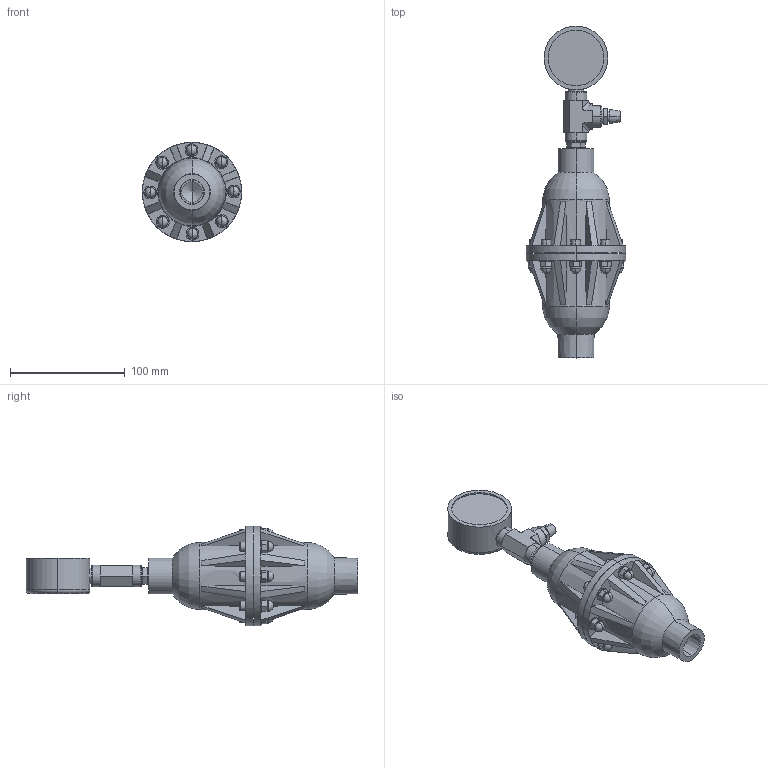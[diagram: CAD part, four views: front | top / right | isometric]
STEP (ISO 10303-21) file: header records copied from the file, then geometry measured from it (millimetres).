
FILE_DESCRIPTION (( 'STEP AP203' ), '1' );
FILE_NAME ('PD0013.STEP', '2016-01-06T10:14:58', ( '' ), ( '' ), 'SwSTEP 2.0', 'SolidWorks 2014', '' );
FILE_SCHEMA (( 'CONFIG_CONTROL_DESIGN' ));
Length unit declared in the file: inch
Products named in the file (2): PD0013
Bounding box: 86.49 x 288.8 x 86.49 mm (x, y, z)
Volume: 537896.9 mm3; surface area: 72509.9 mm2
Topology: 1 solids, 1 shells, 446 faces, 1003 edges, 623 vertices
Faces by surface type: plane 256, cylinder 94, cone 74, torus 22
Entity records: 12655 total; most frequent: CARTESIAN_POINT 2443, DIRECTION 2165, ORIENTED_EDGE 2002, EDGE_CURVE 1001, AXIS2_PLACEMENT_3D 812, VERTEX_POINT 623, LINE 541, VECTOR 541
